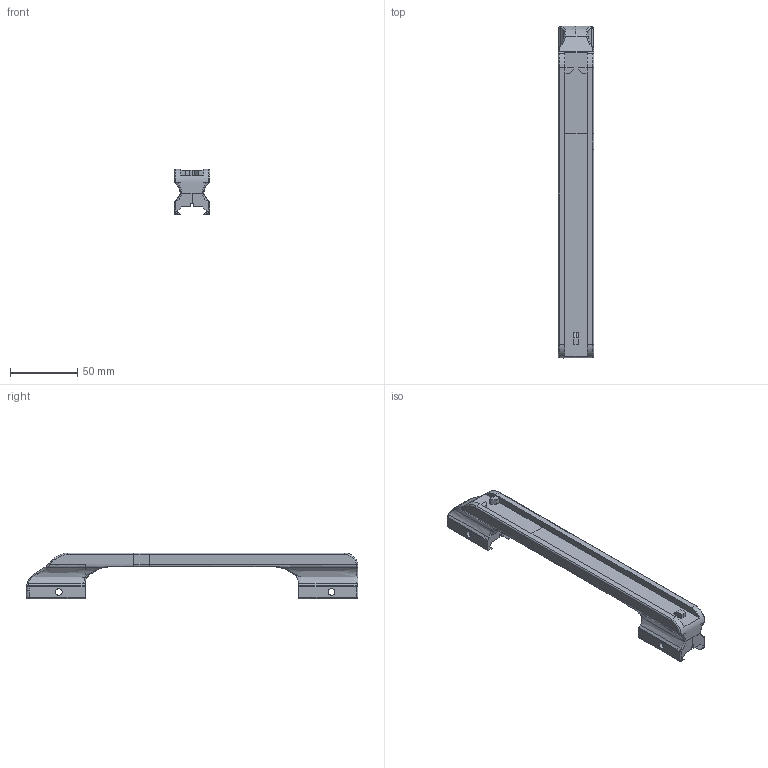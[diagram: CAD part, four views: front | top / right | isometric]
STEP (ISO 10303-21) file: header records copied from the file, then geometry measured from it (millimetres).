
FILE_DESCRIPTION(/* description */ (''),/* implementation_level */ '2;1');
FILE_NAME(/* name */ 'C:/Users/jeremy/OneDrive/Desktop/SG22 Carry Handle No Optic Release.step',/* time_stamp */ '2021-03-18T09:36:23-06:00',/* author */ (''),/* organization */ (''),/* preprocessor_version */ 'ST-DEVELOPER v18.1',/* originating_system */ 'Autodesk Translation Framework v9.10.0.1330',/* authorisation */ '');
FILE_SCHEMA (('AUTOMOTIVE_DESIGN { 1 0 10303 214 3 1 1 }'));
Length unit declared in the file: inch
Products named in the file (1): Space Gun Beta Ready
Bounding box: 26.42 x 246.43 x 34.01 mm (x, y, z)
Volume: 79855.3 mm3; surface area: 27435.7 mm2
Topology: 1 solids, 1 shells, 344 faces, 960 edges, 613 vertices
Faces by surface type: plane 204, bspline 78, cylinder 50, torus 6, sphere 6
Full cylindrical faces by diameter (mm): 5 x4
Entity records: 13023 total; most frequent: CARTESIAN_POINT 4604, ORIENTED_EDGE 1916, DIRECTION 1494, EDGE_CURVE 958, VERTEX_POINT 613, LINE 580, VECTOR 580, AXIS2_PLACEMENT_3D 457
